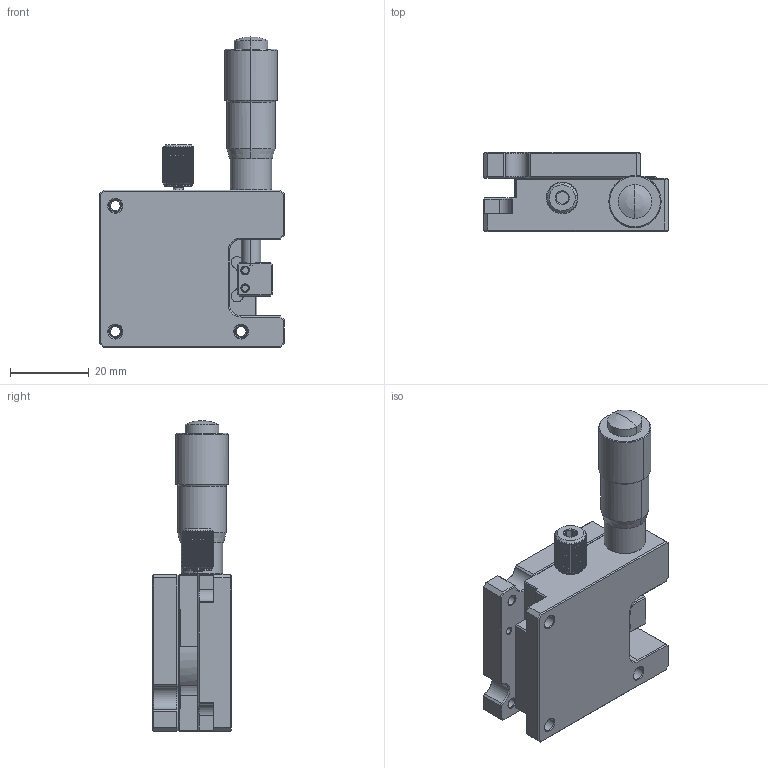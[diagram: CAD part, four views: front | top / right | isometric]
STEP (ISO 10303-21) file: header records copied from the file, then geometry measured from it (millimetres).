
FILE_DESCRIPTION((''),'2;1');
FILE_NAME('ASSY-PST-40_ASM_21_ASM','2021-06-21T19:13:28',('windows10'),(''),'CREO PARAMETRIC BY PTC INC, 2018260','CREO PARAMETRIC BY PTC INC, 2018260','');
FILE_SCHEMA(('CONFIG_CONTROL_DESIGN'));
Length unit declared in the file: millimetre
Products named in the file (8): BOTTOM-40-20_28; MICRO-HEAD-13NEW-SJP_25_1; MICRO-HEAD-13NEW-SJP_25_2; MICRO-HEAD-13NEW-SJP_25_ASM; TOP-40-20_34; PIN-BLOCK-406080_7; STOPPER-8-M3-5_35; ASSY-PST-40_ASM_21_ASM
Assembly tree (7 placements, depth 3):
  ASSY-PST-40_ASM_21_ASM
    BOTTOM-40-20_28
    MICRO-HEAD-13NEW-SJP_25_ASM
      MICRO-HEAD-13NEW-SJP_25_1
      MICRO-HEAD-13NEW-SJP_25_2
    TOP-40-20_34
    PIN-BLOCK-406080_7
    STOPPER-8-M3-5_35
Bounding box: 47 x 20.05 x 79 mm (x, y, z)
Volume: 33016.8 mm3; surface area: 16470.6 mm2
Topology: 6 solids, 7 shells, 777 faces, 2114 edges, 1395 vertices
Faces by surface type: plane 515, cylinder 170, cone 84, torus 4, sphere 4
Entity records: 25371 total; most frequent: CARTESIAN_POINT 5688, ORIENTED_EDGE 4216, DIRECTION 3925, EDGE_CURVE 2110, AXIS2_PLACEMENT_3D 1432, VERTEX_POINT 1395, VECTOR 1061, LINE 1061
